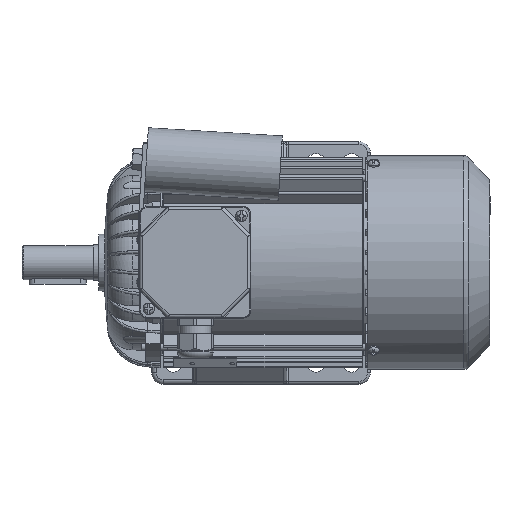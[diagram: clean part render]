
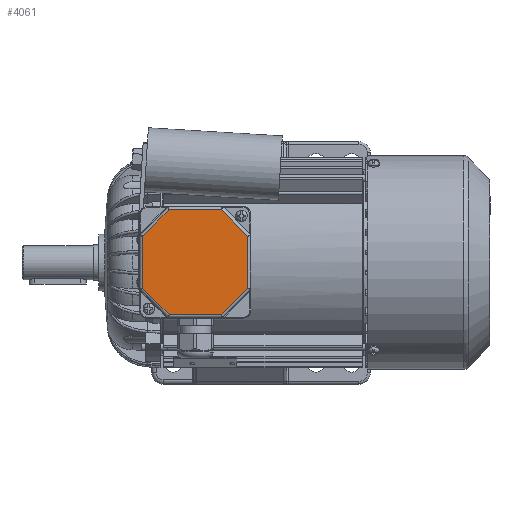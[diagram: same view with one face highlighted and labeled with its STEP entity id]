
A CAD part, top view. The second image highlights one B-rep face of the part: STEP entity #4061.
In plain terms, the highlighted planar face has unit normal (0, 0, 1).
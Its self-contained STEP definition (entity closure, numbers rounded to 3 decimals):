
#4061 = ADVANCED_FACE( '', ( #10017 ), #10018, .T. );
#10017 = FACE_OUTER_BOUND( '', #21560, .T. );
#10018 = PLANE( '', #21561 );
#21560 = EDGE_LOOP( '', ( #56186, #56187, #56188, #56189, #56190, #56191, #56192, #56193 ) );
#21561 = AXIS2_PLACEMENT_3D( '', #56194, #56195, #56196 );
#56186 = ORIENTED_EDGE( '', *, *, #96738, .T. );
#56187 = ORIENTED_EDGE( '', *, *, #96739, .T. );
#56188 = ORIENTED_EDGE( '', *, *, #96740, .T. );
#56189 = ORIENTED_EDGE( '', *, *, #96464, .T. );
#56190 = ORIENTED_EDGE( '', *, *, #96741, .T. );
#56191 = ORIENTED_EDGE( '', *, *, #96742, .T. );
#56192 = ORIENTED_EDGE( '', *, *, #96743, .T. );
#56193 = ORIENTED_EDGE( '', *, *, #96744, .T. );
#56194 = CARTESIAN_POINT( '', ( -39., 39., 12. ) );
#56195 = DIRECTION( '', ( 0., 0., 1. ) );
#56196 = DIRECTION( '', ( 1., 0., 0. ) );
#96464 = EDGE_CURVE( '', #113717, #113718, #113719, .T. );
#96738 = EDGE_CURVE( '', #114203, #114204, #114205, .F. );
#96739 = EDGE_CURVE( '', #114204, #114206, #114207, .T. );
#96740 = EDGE_CURVE( '', #114206, #113717, #114208, .F. );
#96741 = EDGE_CURVE( '', #113718, #114209, #114210, .F. );
#96742 = EDGE_CURVE( '', #114209, #114211, #114212, .T. );
#96743 = EDGE_CURVE( '', #114211, #114213, #114214, .F. );
#96744 = EDGE_CURVE( '', #114213, #114203, #114215, .T. );
#113717 = VERTEX_POINT( '', #133859 );
#113718 = VERTEX_POINT( '', #133860 );
#113719 = LINE( '', #133861, #133862 );
#114203 = VERTEX_POINT( '', #134763 );
#114204 = VERTEX_POINT( '', #134764 );
#114205 = LINE( '', #134765, #134766 );
#114206 = VERTEX_POINT( '', #134767 );
#114207 = LINE( '', #134768, #134769 );
#114208 = LINE( '', #134770, #134771 );
#114209 = VERTEX_POINT( '', #134772 );
#114210 = LINE( '', #134773, #134774 );
#114211 = VERTEX_POINT( '', #134775 );
#114212 = LINE( '', #134776, #134777 );
#114213 = VERTEX_POINT( '', #134778 );
#114214 = LINE( '', #134779, #134780 );
#114215 = LINE( '', #134781, #134782 );
#133859 = CARTESIAN_POINT( '', ( -18.255, 36.825, 12. ) );
#133860 = CARTESIAN_POINT( '', ( -36.825, 18.255, 12. ) );
#133861 = CARTESIAN_POINT( '', ( -37.401, 17.679, 12. ) );
#133862 = VECTOR( '', #166095, 1000. );
#134763 = CARTESIAN_POINT( '', ( 36.825, -18.255, 12. ) );
#134764 = CARTESIAN_POINT( '', ( 36.825, 18.255, 12. ) );
#134765 = CARTESIAN_POINT( '', ( 36.825, 19.069, 12. ) );
#134766 = VECTOR( '', #166438, 1000. );
#134767 = CARTESIAN_POINT( '', ( 18.255, 36.825, 12. ) );
#134768 = CARTESIAN_POINT( '', ( 17.679, 37.401, 12. ) );
#134769 = VECTOR( '', #166439, 1000. );
#134770 = CARTESIAN_POINT( '', ( -19.069, 36.825, 12. ) );
#134771 = VECTOR( '', #166440, 1000. );
#134772 = CARTESIAN_POINT( '', ( -36.825, -18.255, 12. ) );
#134773 = CARTESIAN_POINT( '', ( -36.825, -19.069, 12. ) );
#134774 = VECTOR( '', #166441, 1000. );
#134775 = CARTESIAN_POINT( '', ( -18.255, -36.825, 12. ) );
#134776 = CARTESIAN_POINT( '', ( -17.679, -37.401, 12. ) );
#134777 = VECTOR( '', #166442, 1000. );
#134778 = CARTESIAN_POINT( '', ( 18.255, -36.825, 12. ) );
#134779 = CARTESIAN_POINT( '', ( 19.069, -36.825, 12. ) );
#134780 = VECTOR( '', #166443, 1000. );
#134781 = CARTESIAN_POINT( '', ( 37.401, -17.679, 12. ) );
#134782 = VECTOR( '', #166444, 1000. );
#166095 = DIRECTION( '', ( -0.707, -0.707, 0. ) );
#166438 = DIRECTION( '', ( 0., -1., 0. ) );
#166439 = DIRECTION( '', ( -0.707, 0.707, 0. ) );
#166440 = DIRECTION( '', ( 1., 0., 0. ) );
#166441 = DIRECTION( '', ( 0., 1., 0. ) );
#166442 = DIRECTION( '', ( 0.707, -0.707, 0. ) );
#166443 = DIRECTION( '', ( -1., 0., 0. ) );
#166444 = DIRECTION( '', ( 0.707, 0.707, 0. ) );
